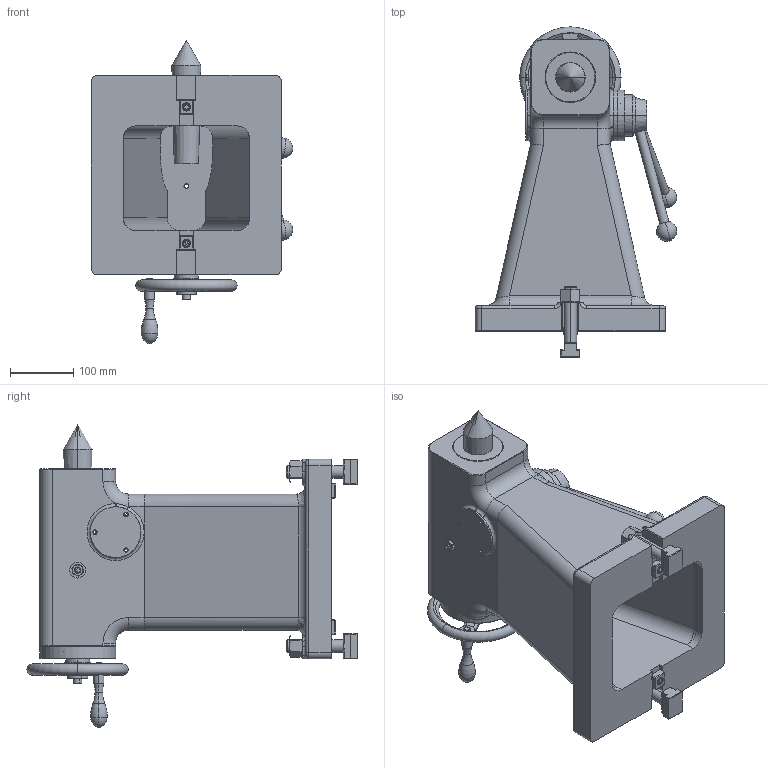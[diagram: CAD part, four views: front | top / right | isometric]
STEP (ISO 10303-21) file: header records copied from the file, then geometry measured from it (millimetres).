
FILE_DESCRIPTION (( 'STEP AP203' ), '1' );
FILE_NAME ('2520047 TC600R.STEP', '2020-12-05T05:16:01', ( '' ), ( '' ), 'SwSTEP 2.0', 'SolidWorks 2019', '' );
FILE_SCHEMA (( 'CONFIG_CONTROL_DESIGN' ));
Length unit declared in the file: millimetre
Products named in the file (1): 2520047 TC600R
Bounding box: 317.76 x 521 x 479.5 mm (x, y, z)
Surface area: 854457.3 mm2 (no closed solid volume)
Topology: 0 solids, 33 shells, 598 faces, 1684 edges, 1086 vertices
Faces by surface type: cylinder 218, plane 199, cone 62, torus 59, bspline 52, sphere 8
Entity records: 23236 total; most frequent: CARTESIAN_POINT 8218, DIRECTION 3170, ORIENTED_EDGE 2927, EDGE_CURVE 1662, AXIS2_PLACEMENT_3D 1253, VERTEX_POINT 1080, CIRCLE 706, EDGE_LOOP 694
